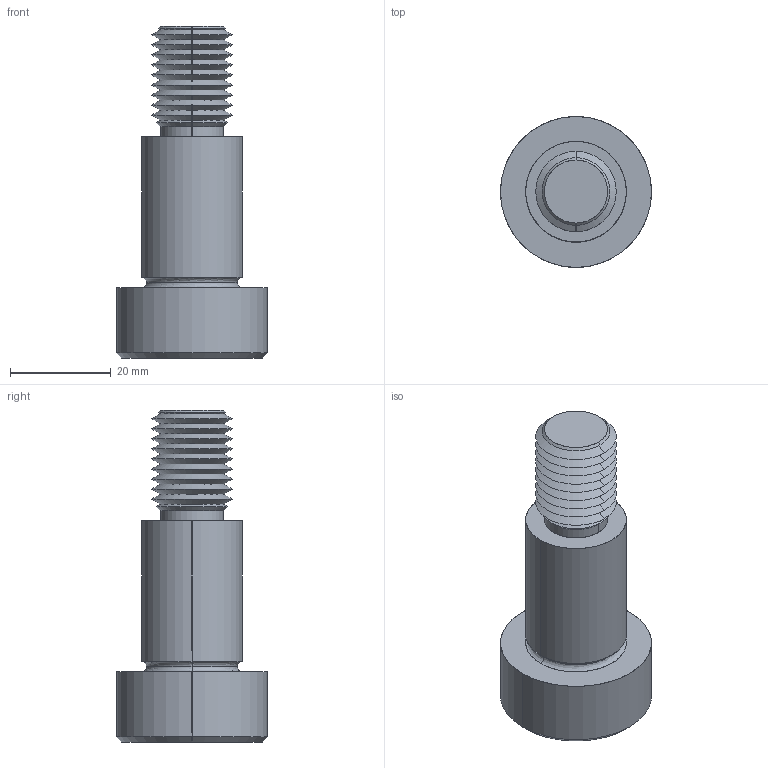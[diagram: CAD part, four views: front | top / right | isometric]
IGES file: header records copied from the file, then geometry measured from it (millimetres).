
Start section: SolidWorks IGES file using analytic representation for surfaces
Global section: file name: C:\Users\IanO\Documents\Temp Folder\GENERAL\SCREW REVISION\P0130_v2\P0130.T5_v2_20220106_IGES\P0130.200-030-T5.igs; native system: SolidWorks 2019; preprocessor: SolidWorks 2019; author: IanO; date: 220106.225846; units: millimetre
Bounding box: 30 x 30 x 66 mm (x, y, z)
Surface area: 6802.9 mm2 (no closed solid volume)
Topology: 0 solids, 0 shells, 80 faces, 692 edges, 690 vertices
Faces by surface type: revolution 60, bspline 20
